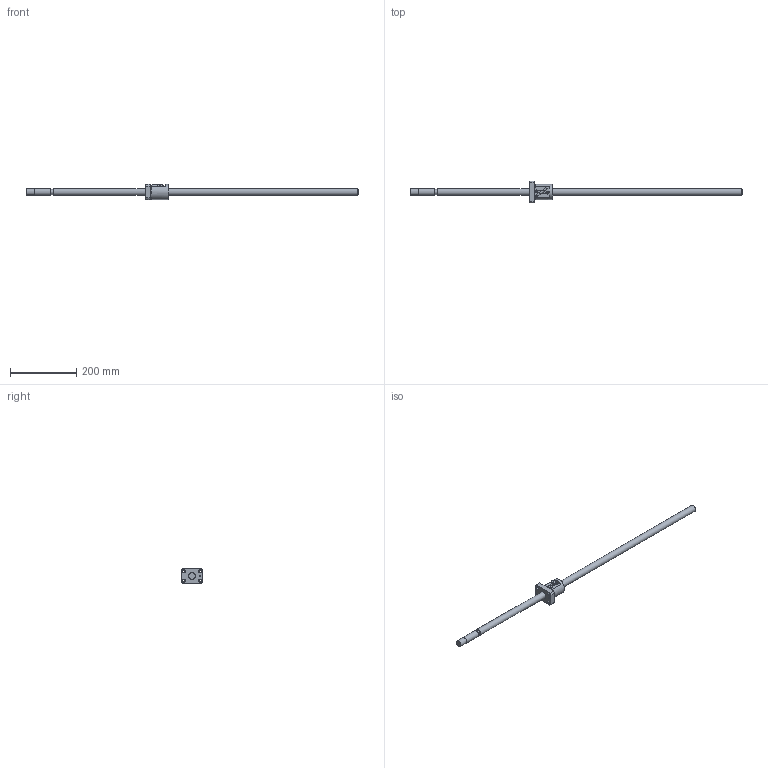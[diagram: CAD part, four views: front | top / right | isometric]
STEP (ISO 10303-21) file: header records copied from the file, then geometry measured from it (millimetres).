
FILE_DESCRIPTION (( 'STEP AP214' ), '1' );
FILE_NAME ('KBS(C)2020-1005.STEP', '2021-07-05T02:22:43', ( '' ), ( '' ), 'SwSTEP 2.0', 'SolidWorks 2019', '' );
FILE_SCHEMA (( 'AUTOMOTIVE_DESIGN' ));
Length unit declared in the file: millimetre
Products named in the file (3): KBS2020-1005; KBS2020; KBS(C)2020-1005
Assembly tree (2 placements, depth 2):
  KBS(C)2020-1005
    KBS2020-1005
    KBS2020
Bounding box: 1005 x 66 x 46 mm (x, y, z)
Volume: 418873.8 mm3; surface area: 87283.5 mm2
Topology: 2 solids, 2 shells, 103 faces, 259 edges, 171 vertices
Faces by surface type: plane 55, cylinder 40, cone 4, torus 4
Full cylindrical faces by diameter (mm): 4.8 x1, 5 x1, 6.6 x4, 7.4 x2, 11 x4, 15.9 x1, 19.5 x1, 20 x3, 22 x2, 46 x1
Entity records: 3309 total; most frequent: CARTESIAN_POINT 874, DIRECTION 464, ORIENTED_EDGE 448, EDGE_CURVE 224, AXIS2_PLACEMENT_3D 176, VERTEX_POINT 164, EDGE_LOOP 158, FACE_OUTER_BOUND 127
